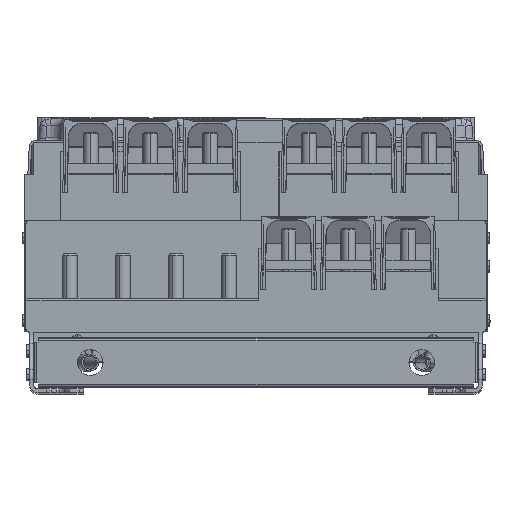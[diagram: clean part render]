
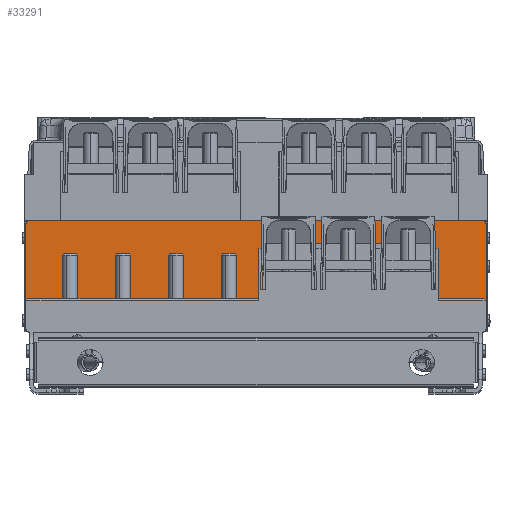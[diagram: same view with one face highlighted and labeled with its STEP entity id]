
A CAD part, top view. The second image highlights one B-rep face of the part: STEP entity #33291.
In plain terms, the highlighted planar face has unit normal (0, 0, 1).
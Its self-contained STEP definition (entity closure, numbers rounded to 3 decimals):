
#108 = DIRECTION ( 'NONE',  ( 0.707, 0.707, 0. ) ) ;
#2102 = DIRECTION ( 'NONE',  ( 0., -1., 0. ) ) ;
#2537 = LINE ( 'NONE', #33159, #18271 ) ;
#4272 = CARTESIAN_POINT ( 'NONE',  ( -247., 31., 179. ) ) ;
#4971 = CARTESIAN_POINT ( 'NONE',  ( 195.511, 35., 179. ) ) ;
#7135 = ORIENTED_EDGE ( 'NONE', *, *, #74968, .F. ) ;
#7915 = CARTESIAN_POINT ( 'NONE',  ( 5.351, 63.129, 179. ) ) ;
#8866 = CARTESIAN_POINT ( 'NONE',  ( -243., 119., 179. ) ) ;
#9926 = DIRECTION ( 'NONE',  ( 1., 0., 0. ) ) ;
#9963 = DIRECTION ( 'NONE',  ( 0., -1., 0. ) ) ;
#9979 = VERTEX_POINT ( 'NONE', #53548 ) ;
#10273 = DIRECTION ( 'NONE',  ( 1., 0., 0. ) ) ;
#10781 = DIRECTION ( 'NONE',  ( 0., 1., 0. ) ) ;
#10790 = VERTEX_POINT ( 'NONE', #72204 ) ;
#11963 = AXIS2_PLACEMENT_3D ( 'NONE', #4272, #93324, #86482 ) ;
#12277 = ORIENTED_EDGE ( 'NONE', *, *, #66501, .F. ) ;
#12461 = VECTOR ( 'NONE', #2102, 1000. ) ;
#12780 = CARTESIAN_POINT ( 'NONE',  ( 190.479, 89., 179. ) ) ;
#13560 = DIRECTION ( 'NONE',  ( 1., 0., 0. ) ) ;
#14170 = CARTESIAN_POINT ( 'NONE',  ( -245., 35., 179. ) ) ;
#15586 = VERTEX_POINT ( 'NONE', #55591 ) ;
#17408 = LINE ( 'NONE', #14170, #17890 ) ;
#17848 = EDGE_CURVE ( 'NONE', #21895, #71731, #39624, .T. ) ;
#17890 = VECTOR ( 'NONE', #108, 1000. ) ;
#18190 = CARTESIAN_POINT ( 'NONE',  ( 247., 115., 179. ) ) ;
#18271 = VECTOR ( 'NONE', #61888, 1000. ) ;
#19130 = LINE ( 'NONE', #12780, #41321 ) ;
#20703 = DIRECTION ( 'NONE',  ( 0., 1., 0. ) ) ;
#21842 = ORIENTED_EDGE ( 'NONE', *, *, #47871, .T. ) ;
#21895 = VERTEX_POINT ( 'NONE', #42316 ) ;
#22958 = DIRECTION ( 'NONE',  ( -0.017, -1., 0. ) ) ;
#23403 = EDGE_CURVE ( 'NONE', #38607, #75682, #94182, .T. ) ;
#24376 = VECTOR ( 'NONE', #20703, 1000. ) ;
#26135 = CARTESIAN_POINT ( 'NONE',  ( -243., 119., 179. ) ) ;
#26475 = VECTOR ( 'NONE', #9926, 1000. ) ;
#26732 = CARTESIAN_POINT ( 'NONE',  ( 192.965, 63.129, 179. ) ) ;
#26953 = ORIENTED_EDGE ( 'NONE', *, *, #88472, .F. ) ;
#27233 = CARTESIAN_POINT ( 'NONE',  ( 2.806, 89., 179. ) ) ;
#27488 = CARTESIAN_POINT ( 'NONE',  ( -247., 35., 179. ) ) ;
#29585 = CARTESIAN_POINT ( 'NONE',  ( 245., 35., 179. ) ) ;
#30436 = LINE ( 'NONE', #18190, #46264 ) ;
#31121 = EDGE_CURVE ( 'NONE', #38946, #38673, #39543, .T. ) ;
#31224 = EDGE_CURVE ( 'NONE', #75682, #9979, #39996, .T. ) ;
#31264 = ORIENTED_EDGE ( 'NONE', *, *, #80010, .F. ) ;
#31353 = CARTESIAN_POINT ( 'NONE',  ( 243., 119., 179. ) ) ;
#31878 = VERTEX_POINT ( 'NONE', #91362 ) ;
#32862 = VECTOR ( 'NONE', #22958, 1000. ) ;
#33159 = CARTESIAN_POINT ( 'NONE',  ( 245., 35., 179. ) ) ;
#33291 = ADVANCED_FACE ( 'NONE', ( #62683 ), #40768, .T. ) ;
#33796 = ORIENTED_EDGE ( 'NONE', *, *, #41965, .F. ) ;
#34431 = VECTOR ( 'NONE', #13560, 1000. ) ;
#35341 = CIRCLE ( 'NONE', #81984, 4. ) ;
#36514 = EDGE_LOOP ( 'NONE', ( #7135, #76902, #64772, #60411, #77216, #41406, #66987, #33796, #31264, #39762, #26953, #12277, #21842, #83433, #59289, #91533 ) ) ;
#38607 = VERTEX_POINT ( 'NONE', #86690 ) ;
#38673 = VERTEX_POINT ( 'NONE', #4971 ) ;
#38946 = VERTEX_POINT ( 'NONE', #61704 ) ;
#39543 = LINE ( 'NONE', #70627, #12461 ) ;
#39624 = LINE ( 'NONE', #84385, #26475 ) ;
#39751 = EDGE_CURVE ( 'NONE', #38673, #55216, #54581, .T. ) ;
#39762 = ORIENTED_EDGE ( 'NONE', *, *, #79969, .F. ) ;
#39996 = LINE ( 'NONE', #76545, #62301 ) ;
#40768 = PLANE ( 'NONE',  #11963 ) ;
#41321 = VECTOR ( 'NONE', #57050, 1000. ) ;
#41406 = ORIENTED_EDGE ( 'NONE', *, *, #39751, .T. ) ;
#41965 = EDGE_CURVE ( 'NONE', #55536, #50366, #30436, .T. ) ;
#42185 = LINE ( 'NONE', #26135, #44235 ) ;
#42316 = CARTESIAN_POINT ( 'NONE',  ( 5.894, 94.2, 179. ) ) ;
#43013 = EDGE_CURVE ( 'NONE', #9979, #31878, #78843, .T. ) ;
#44235 = VECTOR ( 'NONE', #85526, 1000. ) ;
#46264 = VECTOR ( 'NONE', #9963, 1000. ) ;
#47871 = EDGE_CURVE ( 'NONE', #56269, #38607, #17408, .T. ) ;
#48486 = CARTESIAN_POINT ( 'NONE',  ( -247., 1., 179. ) ) ;
#50366 = VERTEX_POINT ( 'NONE', #72596 ) ;
#50994 = CARTESIAN_POINT ( 'NONE',  ( -247., 33., 179. ) ) ;
#52146 = LINE ( 'NONE', #7915, #32862 ) ;
#52718 = VERTEX_POINT ( 'NONE', #8866 ) ;
#53548 = CARTESIAN_POINT ( 'NONE',  ( 2.806, 89., 179. ) ) ;
#53552 = AXIS2_PLACEMENT_3D ( 'NONE', #92346, #69940, #70419 ) ;
#53946 = VECTOR ( 'NONE', #93234, 1000. ) ;
#54505 = LINE ( 'NONE', #26732, #55184 ) ;
#54581 = LINE ( 'NONE', #84273, #62408 ) ;
#55025 = CARTESIAN_POINT ( 'NONE',  ( 192.423, 94.2, 179. ) ) ;
#55184 = VECTOR ( 'NONE', #84202, 1000. ) ;
#55216 = VERTEX_POINT ( 'NONE', #29585 ) ;
#55536 = VERTEX_POINT ( 'NONE', #74232 ) ;
#55591 = CARTESIAN_POINT ( 'NONE',  ( -247., 115., 179. ) ) ;
#56269 = VERTEX_POINT ( 'NONE', #50994 ) ;
#57050 = DIRECTION ( 'NONE',  ( 1., 0., 0. ) ) ;
#59289 = ORIENTED_EDGE ( 'NONE', *, *, #31224, .T. ) ;
#60411 = ORIENTED_EDGE ( 'NONE', *, *, #65748, .T. ) ;
#61006 = DIRECTION ( 'NONE',  ( 1., 0., 0. ) ) ;
#61476 = DIRECTION ( 'NONE',  ( 0., 0., -1. ) ) ;
#61704 = CARTESIAN_POINT ( 'NONE',  ( 195.511, 89., 179. ) ) ;
#61888 = DIRECTION ( 'NONE',  ( 0.707, -0.707, 0. ) ) ;
#62301 = VECTOR ( 'NONE', #10781, 1000. ) ;
#62408 = VECTOR ( 'NONE', #10273, 1000. ) ;
#62683 = FACE_OUTER_BOUND ( 'NONE', #36514, .T. ) ;
#64772 = ORIENTED_EDGE ( 'NONE', *, *, #81198, .T. ) ;
#65748 = EDGE_CURVE ( 'NONE', #10790, #38946, #19130, .T. ) ;
#66501 = EDGE_CURVE ( 'NONE', #56269, #15586, #77692, .T. ) ;
#66987 = ORIENTED_EDGE ( 'NONE', *, *, #95922, .T. ) ;
#69940 = DIRECTION ( 'NONE',  ( 0., 0., -1. ) ) ;
#70419 = DIRECTION ( 'NONE',  ( 1., 0., 0. ) ) ;
#70627 = CARTESIAN_POINT ( 'NONE',  ( 195.511, 89., 179. ) ) ;
#71376 = VERTEX_POINT ( 'NONE', #31353 ) ;
#71731 = VERTEX_POINT ( 'NONE', #55025 ) ;
#72131 = CIRCLE ( 'NONE', #53552, 4. ) ;
#72204 = CARTESIAN_POINT ( 'NONE',  ( 192.514, 89., 179. ) ) ;
#72596 = CARTESIAN_POINT ( 'NONE',  ( 247., 33., 179. ) ) ;
#74232 = CARTESIAN_POINT ( 'NONE',  ( 247., 115., 179. ) ) ;
#74968 = EDGE_CURVE ( 'NONE', #21895, #31878, #52146, .T. ) ;
#75682 = VERTEX_POINT ( 'NONE', #79602 ) ;
#76545 = CARTESIAN_POINT ( 'NONE',  ( 2.806, 35., 179. ) ) ;
#76902 = ORIENTED_EDGE ( 'NONE', *, *, #17848, .T. ) ;
#77216 = ORIENTED_EDGE ( 'NONE', *, *, #31121, .T. ) ;
#77692 = LINE ( 'NONE', #48486, #24376 ) ;
#78843 = LINE ( 'NONE', #27233, #34431 ) ;
#79602 = CARTESIAN_POINT ( 'NONE',  ( 2.806, 35., 179. ) ) ;
#79969 = EDGE_CURVE ( 'NONE', #52718, #71376, #42185, .T. ) ;
#80010 = EDGE_CURVE ( 'NONE', #71376, #55536, #72131, .T. ) ;
#81198 = EDGE_CURVE ( 'NONE', #71731, #10790, #54505, .T. ) ;
#81984 = AXIS2_PLACEMENT_3D ( 'NONE', #82418, #61476, #61006 ) ;
#82418 = CARTESIAN_POINT ( 'NONE',  ( -243., 115., 179. ) ) ;
#83433 = ORIENTED_EDGE ( 'NONE', *, *, #23403, .T. ) ;
#84202 = DIRECTION ( 'NONE',  ( 0.017, -1., 0. ) ) ;
#84273 = CARTESIAN_POINT ( 'NONE',  ( -247., 35., 179. ) ) ;
#84385 = CARTESIAN_POINT ( 'NONE',  ( -44.533, 94.2, 179. ) ) ;
#85526 = DIRECTION ( 'NONE',  ( 1., 0., 0. ) ) ;
#86482 = DIRECTION ( 'NONE',  ( 1., 0., 0. ) ) ;
#86690 = CARTESIAN_POINT ( 'NONE',  ( -245., 35., 179. ) ) ;
#88472 = EDGE_CURVE ( 'NONE', #15586, #52718, #35341, .T. ) ;
#91362 = CARTESIAN_POINT ( 'NONE',  ( 5.803, 89., 179. ) ) ;
#91533 = ORIENTED_EDGE ( 'NONE', *, *, #43013, .T. ) ;
#92346 = CARTESIAN_POINT ( 'NONE',  ( 243., 115., 179. ) ) ;
#93234 = DIRECTION ( 'NONE',  ( 1., 0., 0. ) ) ;
#93324 = DIRECTION ( 'NONE',  ( 0., 0., 1. ) ) ;
#94182 = LINE ( 'NONE', #27488, #53946 ) ;
#95922 = EDGE_CURVE ( 'NONE', #55216, #50366, #2537, .T. ) ;
